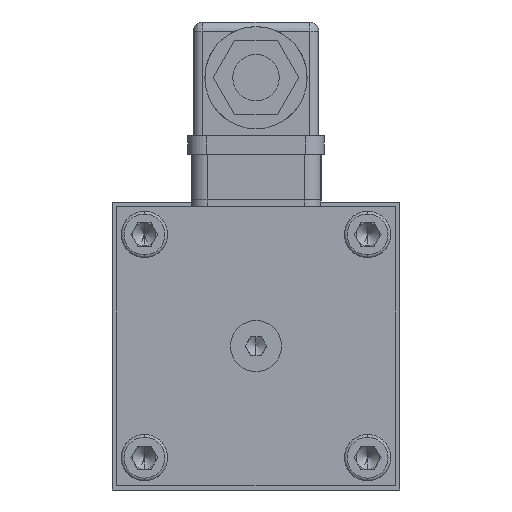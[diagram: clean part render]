
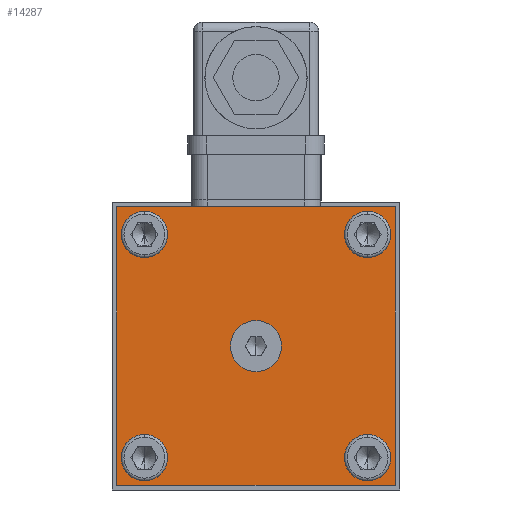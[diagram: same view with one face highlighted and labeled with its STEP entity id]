
A CAD part, left-side view. The second image highlights one B-rep face of the part: STEP entity #14287.
In plain terms, the highlighted planar face has unit normal (-1, 0, 0).
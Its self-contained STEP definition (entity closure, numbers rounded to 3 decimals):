
#447 = CIRCLE ( 'NONE', #23758, 5. ) ;
#1058 = FACE_OUTER_BOUND ( 'NONE', #21410, .T. ) ;
#1411 = DIRECTION ( 'NONE',  ( -1., 0., 0. ) ) ;
#1607 = DIRECTION ( 'NONE',  ( -1., 0., 0. ) ) ;
#2137 = AXIS2_PLACEMENT_3D ( 'NONE', #15433, #42788, #19373 ) ;
#2649 = VERTEX_POINT ( 'NONE', #46109 ) ;
#2692 = EDGE_CURVE ( 'NONE', #2649, #10168, #26919, .T. ) ;
#2781 = ORIENTED_EDGE ( 'NONE', *, *, #14454, .T. ) ;
#2923 = VECTOR ( 'NONE', #22610, 1000. ) ;
#3330 = AXIS2_PLACEMENT_3D ( 'NONE', #24958, #1607, #28881 ) ;
#4032 = LINE ( 'NONE', #40433, #14377 ) ;
#4631 = ORIENTED_EDGE ( 'NONE', *, *, #32393, .F. ) ;
#5344 = DIRECTION ( 'NONE',  ( 0., 0., 1. ) ) ;
#5710 = CARTESIAN_POINT ( 'NONE',  ( -81.2, 30., 30. ) ) ;
#6103 = PLANE ( 'NONE',  #33409 ) ;
#6941 = VERTEX_POINT ( 'NONE', #12106 ) ;
#7017 = DIRECTION ( 'NONE',  ( -1., 0., 0. ) ) ;
#7421 = EDGE_LOOP ( 'NONE', ( #7852, #19825 ) ) ;
#7511 = CIRCLE ( 'NONE', #37085, 5. ) ;
#7520 = VERTEX_POINT ( 'NONE', #24682 ) ;
#7852 = ORIENTED_EDGE ( 'NONE', *, *, #48847, .F. ) ;
#7925 = VERTEX_POINT ( 'NONE', #46411 ) ;
#8997 = VECTOR ( 'NONE', #24055, 1000. ) ;
#9150 = AXIS2_PLACEMENT_3D ( 'NONE', #17320, #44658, #21239 ) ;
#9201 = ORIENTED_EDGE ( 'NONE', *, *, #12836, .F. ) ;
#9738 = CIRCLE ( 'NONE', #3330, 5. ) ;
#9820 = DIRECTION ( 'NONE',  ( 0., 0., 1. ) ) ;
#10168 = VERTEX_POINT ( 'NONE', #26414 ) ;
#10210 = FACE_BOUND ( 'NONE', #14871, .T. ) ;
#10420 = CIRCLE ( 'NONE', #26520, 5. ) ;
#11255 = DIRECTION ( 'NONE',  ( -1., 0., 0. ) ) ;
#11418 = FACE_BOUND ( 'NONE', #7421, .T. ) ;
#12106 = CARTESIAN_POINT ( 'NONE',  ( -81.2, -30., -30. ) ) ;
#12380 = CARTESIAN_POINT ( 'NONE',  ( -81.2, 0., 5.5 ) ) ;
#12466 = EDGE_CURVE ( 'NONE', #31443, #18554, #48885, .T. ) ;
#12836 = EDGE_CURVE ( 'NONE', #17944, #7925, #33106, .T. ) ;
#13800 = ORIENTED_EDGE ( 'NONE', *, *, #31733, .F. ) ;
#13960 = EDGE_LOOP ( 'NONE', ( #37028, #4631 ) ) ;
#14116 = EDGE_CURVE ( 'NONE', #43094, #7520, #34041, .T. ) ;
#14287 = ADVANCED_FACE ( 'NONE', ( #11418, #21770, #20543, #1058, #10210, #30986 ), #6103, .T. ) ;
#14377 = VECTOR ( 'NONE', #36304, 1000. ) ;
#14454 = EDGE_CURVE ( 'NONE', #7520, #6941, #4032, .T. ) ;
#14871 = EDGE_LOOP ( 'NONE', ( #23687, #16870 ) ) ;
#15433 = CARTESIAN_POINT ( 'NONE',  ( -81.2, 0., 0. ) ) ;
#15773 = ORIENTED_EDGE ( 'NONE', *, *, #14116, .T. ) ;
#16012 = EDGE_LOOP ( 'NONE', ( #9201, #32025 ) ) ;
#16235 = DIRECTION ( 'NONE',  ( -1., 0., 0. ) ) ;
#16534 = CARTESIAN_POINT ( 'NONE',  ( -81.2, 24.04, 29.04 ) ) ;
#16870 = ORIENTED_EDGE ( 'NONE', *, *, #37641, .F. ) ;
#17320 = CARTESIAN_POINT ( 'NONE',  ( -81.2, 24.04, 24.04 ) ) ;
#17740 = CARTESIAN_POINT ( 'NONE',  ( -81.2, 0., -5.5 ) ) ;
#17835 = CIRCLE ( 'NONE', #2137, 5.5 ) ;
#17944 = VERTEX_POINT ( 'NONE', #49747 ) ;
#18111 = VERTEX_POINT ( 'NONE', #19619 ) ;
#18510 = CARTESIAN_POINT ( 'NONE',  ( -81.2, -24.04, 24.04 ) ) ;
#18554 = VERTEX_POINT ( 'NONE', #12380 ) ;
#18713 = CARTESIAN_POINT ( 'NONE',  ( -81.2, 30., 30. ) ) ;
#19147 = AXIS2_PLACEMENT_3D ( 'NONE', #22507, #7017, #30400 ) ;
#19373 = DIRECTION ( 'NONE',  ( 0., 0., 1. ) ) ;
#19619 = CARTESIAN_POINT ( 'NONE',  ( -81.2, -24.04, 29.04 ) ) ;
#19825 = ORIENTED_EDGE ( 'NONE', *, *, #12466, .F. ) ;
#19980 = EDGE_CURVE ( 'NONE', #10168, #2649, #7511, .T. ) ;
#20104 = CARTESIAN_POINT ( 'NONE',  ( -81.2, -30., 30. ) ) ;
#20533 = CARTESIAN_POINT ( 'NONE',  ( -81.2, 24.04, -24.04 ) ) ;
#20543 = FACE_BOUND ( 'NONE', #31381, .T. ) ;
#21239 = DIRECTION ( 'NONE',  ( 0., 0., 1. ) ) ;
#21410 = EDGE_LOOP ( 'NONE', ( #38620, #13800, #15773, #2781 ) ) ;
#21456 = AXIS2_PLACEMENT_3D ( 'NONE', #43407, #16235, #9820 ) ;
#21770 = FACE_BOUND ( 'NONE', #13960, .T. ) ;
#22434 = DIRECTION ( 'NONE',  ( 0., 0., 1. ) ) ;
#22507 = CARTESIAN_POINT ( 'NONE',  ( -81.2, 0., 0. ) ) ;
#22537 = CARTESIAN_POINT ( 'NONE',  ( -81.2, -30., 30. ) ) ;
#22610 = DIRECTION ( 'NONE',  ( 0., 0., -1. ) ) ;
#23687 = ORIENTED_EDGE ( 'NONE', *, *, #43579, .F. ) ;
#23758 = AXIS2_PLACEMENT_3D ( 'NONE', #24770, #1411, #28684 ) ;
#24055 = DIRECTION ( 'NONE',  ( 0., 0., -1. ) ) ;
#24682 = CARTESIAN_POINT ( 'NONE',  ( -81.2, 30., -30. ) ) ;
#24770 = CARTESIAN_POINT ( 'NONE',  ( -81.2, -24.04, -24.04 ) ) ;
#24958 = CARTESIAN_POINT ( 'NONE',  ( -81.2, -24.04, 24.04 ) ) ;
#26234 = CARTESIAN_POINT ( 'NONE',  ( -81.2, 24.04, 19.04 ) ) ;
#26414 = CARTESIAN_POINT ( 'NONE',  ( -81.2, 24.04, -29.04 ) ) ;
#26520 = AXIS2_PLACEMENT_3D ( 'NONE', #34664, #11255, #38583 ) ;
#26919 = CIRCLE ( 'NONE', #45021, 5. ) ;
#28479 = LINE ( 'NONE', #20104, #8997 ) ;
#28684 = DIRECTION ( 'NONE',  ( 0., 0., 1. ) ) ;
#28881 = DIRECTION ( 'NONE',  ( 0., 0., 1. ) ) ;
#29633 = LINE ( 'NONE', #43708, #46754 ) ;
#29820 = CARTESIAN_POINT ( 'NONE',  ( -81.2, -24.04, 19.04 ) ) ;
#30225 = DIRECTION ( 'NONE',  ( -1., 0., 0. ) ) ;
#30400 = DIRECTION ( 'NONE',  ( 0., 0., 1. ) ) ;
#30986 = FACE_BOUND ( 'NONE', #16012, .T. ) ;
#31256 = EDGE_CURVE ( 'NONE', #7925, #17944, #447, .T. ) ;
#31381 = EDGE_LOOP ( 'NONE', ( #38427, #35029 ) ) ;
#31443 = VERTEX_POINT ( 'NONE', #17740 ) ;
#31733 = EDGE_CURVE ( 'NONE', #43094, #49223, #29633, .T. ) ;
#32025 = ORIENTED_EDGE ( 'NONE', *, *, #31256, .F. ) ;
#32393 = EDGE_CURVE ( 'NONE', #49671, #36559, #49731, .T. ) ;
#33106 = CIRCLE ( 'NONE', #21456, 5. ) ;
#33409 = AXIS2_PLACEMENT_3D ( 'NONE', #5710, #40765, #36820 ) ;
#34041 = LINE ( 'NONE', #18713, #2923 ) ;
#34664 = CARTESIAN_POINT ( 'NONE',  ( -81.2, 24.04, 24.04 ) ) ;
#34881 = EDGE_CURVE ( 'NONE', #49223, #6941, #28479, .T. ) ;
#34888 = DIRECTION ( 'NONE',  ( -1., 0., 0. ) ) ;
#35029 = ORIENTED_EDGE ( 'NONE', *, *, #19980, .F. ) ;
#36304 = DIRECTION ( 'NONE',  ( 0., -1., 0. ) ) ;
#36559 = VERTEX_POINT ( 'NONE', #16534 ) ;
#36820 = DIRECTION ( 'NONE',  ( 0., 0., -1. ) ) ;
#37028 = ORIENTED_EDGE ( 'NONE', *, *, #43052, .F. ) ;
#37085 = AXIS2_PLACEMENT_3D ( 'NONE', #20533, #34888, #42557 ) ;
#37641 = EDGE_CURVE ( 'NONE', #48680, #18111, #9738, .T. ) ;
#38427 = ORIENTED_EDGE ( 'NONE', *, *, #2692, .F. ) ;
#38583 = DIRECTION ( 'NONE',  ( 0., 0., 1. ) ) ;
#38620 = ORIENTED_EDGE ( 'NONE', *, *, #34881, .F. ) ;
#39381 = AXIS2_PLACEMENT_3D ( 'NONE', #18510, #45847, #22434 ) ;
#40433 = CARTESIAN_POINT ( 'NONE',  ( -81.2, 30., -30. ) ) ;
#40765 = DIRECTION ( 'NONE',  ( -1., 0., 0. ) ) ;
#42557 = DIRECTION ( 'NONE',  ( 0., 0., 1. ) ) ;
#42788 = DIRECTION ( 'NONE',  ( -1., 0., 0. ) ) ;
#43052 = EDGE_CURVE ( 'NONE', #36559, #49671, #10420, .T. ) ;
#43094 = VERTEX_POINT ( 'NONE', #50192 ) ;
#43407 = CARTESIAN_POINT ( 'NONE',  ( -81.2, -24.04, -24.04 ) ) ;
#43579 = EDGE_CURVE ( 'NONE', #18111, #48680, #46953, .T. ) ;
#43708 = CARTESIAN_POINT ( 'NONE',  ( -81.2, 30., 30. ) ) ;
#44658 = DIRECTION ( 'NONE',  ( -1., 0., 0. ) ) ;
#45021 = AXIS2_PLACEMENT_3D ( 'NONE', #49536, #30225, #5344 ) ;
#45847 = DIRECTION ( 'NONE',  ( -1., 0., 0. ) ) ;
#46109 = CARTESIAN_POINT ( 'NONE',  ( -81.2, 24.04, -19.04 ) ) ;
#46411 = CARTESIAN_POINT ( 'NONE',  ( -81.2, -24.04, -29.04 ) ) ;
#46754 = VECTOR ( 'NONE', #47467, 1000. ) ;
#46953 = CIRCLE ( 'NONE', #39381, 5. ) ;
#47467 = DIRECTION ( 'NONE',  ( 0., -1., 0. ) ) ;
#48680 = VERTEX_POINT ( 'NONE', #29820 ) ;
#48847 = EDGE_CURVE ( 'NONE', #18554, #31443, #17835, .T. ) ;
#48885 = CIRCLE ( 'NONE', #19147, 5.5 ) ;
#49223 = VERTEX_POINT ( 'NONE', #22537 ) ;
#49536 = CARTESIAN_POINT ( 'NONE',  ( -81.2, 24.04, -24.04 ) ) ;
#49671 = VERTEX_POINT ( 'NONE', #26234 ) ;
#49731 = CIRCLE ( 'NONE', #9150, 5. ) ;
#49747 = CARTESIAN_POINT ( 'NONE',  ( -81.2, -24.04, -19.04 ) ) ;
#50192 = CARTESIAN_POINT ( 'NONE',  ( -81.2, 30., 30. ) ) ;
